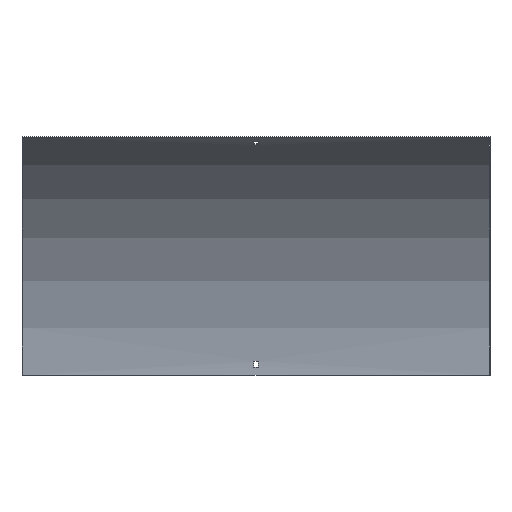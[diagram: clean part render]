
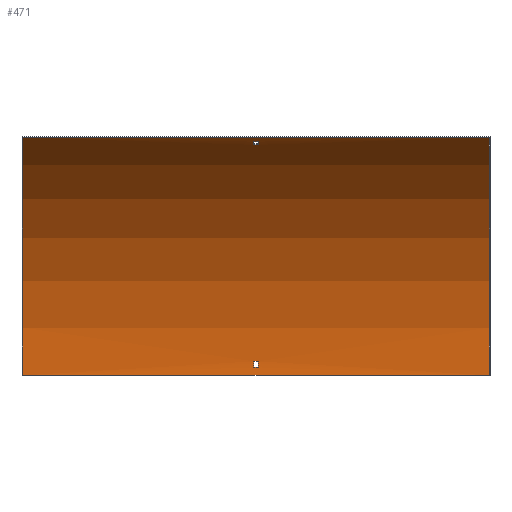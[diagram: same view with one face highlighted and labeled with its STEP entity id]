
A CAD part, front view. The second image highlights one B-rep face of the part: STEP entity #471.
In plain terms, the highlighted cylindrical face has radius 412.5 mm (diameter 825 mm), a partial arc.
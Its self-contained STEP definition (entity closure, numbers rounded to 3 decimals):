
#1 = ORIENTED_EDGE ( 'NONE', *, *, #557, .F. ) ;
#4 = VERTEX_POINT ( 'NONE', #45 ) ;
#9 = DIRECTION ( 'NONE',  ( 1., 0., 0. ) ) ;
#20 = LINE ( 'NONE', #585, #376 ) ;
#22 = ORIENTED_EDGE ( 'NONE', *, *, #40, .T. ) ;
#29 = CARTESIAN_POINT ( 'NONE',  ( 350., -207.75, 357.235 ) ) ;
#34 = EDGE_LOOP ( 'NONE', ( #61, #313, #528, #197 ) ) ;
#40 = EDGE_CURVE ( 'NONE', #273, #304, #233, .T. ) ;
#44 = EDGE_CURVE ( 'NONE', #304, #487, #251, .T. ) ;
#45 = CARTESIAN_POINT ( 'NONE',  ( 3.25, -1.675, 12. ) ) ;
#47 = DIRECTION ( 'NONE',  ( -1., 0., 0. ) ) ;
#52 = FACE_OUTER_BOUND ( 'NONE', #153, .T. ) ;
#58 = EDGE_CURVE ( 'NONE', #446, #4, #131, .T. ) ;
#61 = ORIENTED_EDGE ( 'NONE', *, *, #325, .T. ) ;
#69 = CIRCLE ( 'NONE', #441, 412.5 ) ;
#83 = EDGE_LOOP ( 'NONE', ( #594, #438, #1, #425 ) ) ;
#91 = CARTESIAN_POINT ( 'NONE',  ( 3.25, -189.831, 346.272 ) ) ;
#92 = DIRECTION ( 'NONE',  ( 1., 0., 0. ) ) ;
#98 = CARTESIAN_POINT ( 'NONE',  ( 350., -1.5, 0. ) ) ;
#101 = EDGE_CURVE ( 'NONE', #580, #446, #234, .T. ) ;
#121 = ORIENTED_EDGE ( 'NONE', *, *, #271, .F. ) ;
#128 = EDGE_CURVE ( 'NONE', #364, #482, #69, .T. ) ;
#131 = LINE ( 'NONE', #283, #484 ) ;
#134 = LINE ( 'NONE', #606, #410 ) ;
#142 = DIRECTION ( 'NONE',  ( -1., 0., 0. ) ) ;
#143 = CARTESIAN_POINT ( 'NONE',  ( 350., -207.75, 357.235 ) ) ;
#150 = DIRECTION ( 'NONE',  ( 0., 0., -1. ) ) ;
#153 = EDGE_LOOP ( 'NONE', ( #121, #165, #22, #215 ) ) ;
#157 = VECTOR ( 'NONE', #524, 1000. ) ;
#165 = ORIENTED_EDGE ( 'NONE', *, *, #523, .F. ) ;
#177 = DIRECTION ( 'NONE',  ( 1., 0., 0. ) ) ;
#181 = CIRCLE ( 'NONE', #521, 412.5 ) ;
#186 = CARTESIAN_POINT ( 'NONE',  ( -3.25, -2.035, 21. ) ) ;
#192 = DIRECTION ( 'NONE',  ( 0., 0., 1. ) ) ;
#197 = ORIENTED_EDGE ( 'NONE', *, *, #128, .T. ) ;
#203 = VERTEX_POINT ( 'NONE', #296 ) ;
#210 = CARTESIAN_POINT ( 'NONE',  ( 351.5, -189.831, 346.272 ) ) ;
#215 = ORIENTED_EDGE ( 'NONE', *, *, #44, .T. ) ;
#219 = LINE ( 'NONE', #210, #586 ) ;
#233 = CIRCLE ( 'NONE', #598, 412.5 ) ;
#234 = CIRCLE ( 'NONE', #280, 412.5 ) ;
#239 = FACE_BOUND ( 'NONE', #34, .T. ) ;
#240 = DIRECTION ( 'NONE',  ( 0., 0., 1. ) ) ;
#244 = CARTESIAN_POINT ( 'NONE',  ( 351.5, -414., 0. ) ) ;
#249 = DIRECTION ( 'NONE',  ( -1., 0., 0. ) ) ;
#251 = LINE ( 'NONE', #143, #412 ) ;
#260 = AXIS2_PLACEMENT_3D ( 'NONE', #595, #177, #263 ) ;
#263 = DIRECTION ( 'NONE',  ( 0., 1., 0. ) ) ;
#268 = DIRECTION ( 'NONE',  ( -1., 0., 0. ) ) ;
#271 = EDGE_CURVE ( 'NONE', #203, #487, #399, .T. ) ;
#273 = VERTEX_POINT ( 'NONE', #525 ) ;
#278 = CIRCLE ( 'NONE', #260, 412.5 ) ;
#280 = AXIS2_PLACEMENT_3D ( 'NONE', #382, #423, #192 ) ;
#283 = CARTESIAN_POINT ( 'NONE',  ( 351.5, -1.675, 12. ) ) ;
#287 = CARTESIAN_POINT ( 'NONE',  ( 3.25, -414., 0. ) ) ;
#296 = CARTESIAN_POINT ( 'NONE',  ( -350., -1.5, 0. ) ) ;
#299 = EDGE_CURVE ( 'NONE', #573, #580, #20, .T. ) ;
#304 = VERTEX_POINT ( 'NONE', #29 ) ;
#310 = CARTESIAN_POINT ( 'NONE',  ( -3.25, -197.445, 351.084 ) ) ;
#313 = ORIENTED_EDGE ( 'NONE', *, *, #388, .T. ) ;
#325 = EDGE_CURVE ( 'NONE', #482, #591, #219, .T. ) ;
#327 = CARTESIAN_POINT ( 'NONE',  ( 3.25, -2.035, 21. ) ) ;
#330 = CARTESIAN_POINT ( 'NONE',  ( -3.25, -1.675, 12. ) ) ;
#333 = CARTESIAN_POINT ( 'NONE',  ( -350., -207.75, 357.235 ) ) ;
#364 = VERTEX_POINT ( 'NONE', #395 ) ;
#371 = VERTEX_POINT ( 'NONE', #310 ) ;
#376 = VECTOR ( 'NONE', #543, 1000. ) ;
#377 = CARTESIAN_POINT ( 'NONE',  ( -3.25, -189.831, 346.272 ) ) ;
#382 = CARTESIAN_POINT ( 'NONE',  ( -3.25, -414., 0. ) ) ;
#388 = EDGE_CURVE ( 'NONE', #591, #371, #278, .T. ) ;
#395 = CARTESIAN_POINT ( 'NONE',  ( 3.25, -197.445, 351.084 ) ) ;
#399 = CIRCLE ( 'NONE', #488, 412.5 ) ;
#410 = VECTOR ( 'NONE', #421, 1000. ) ;
#412 = VECTOR ( 'NONE', #249, 1000. ) ;
#415 = FACE_BOUND ( 'NONE', #83, .T. ) ;
#421 = DIRECTION ( 'NONE',  ( 1., 0., 0. ) ) ;
#423 = DIRECTION ( 'NONE',  ( -1., 0., 0. ) ) ;
#425 = ORIENTED_EDGE ( 'NONE', *, *, #58, .F. ) ;
#429 = CARTESIAN_POINT ( 'NONE',  ( -350., -414., 0. ) ) ;
#432 = EDGE_CURVE ( 'NONE', #371, #364, #134, .T. ) ;
#438 = ORIENTED_EDGE ( 'NONE', *, *, #299, .F. ) ;
#441 = AXIS2_PLACEMENT_3D ( 'NONE', #469, #47, #240 ) ;
#446 = VERTEX_POINT ( 'NONE', #330 ) ;
#467 = DIRECTION ( 'NONE',  ( 0., 0., -1. ) ) ;
#469 = CARTESIAN_POINT ( 'NONE',  ( 3.25, -414., 0. ) ) ;
#471 = ADVANCED_FACE ( 'NONE', ( #415, #52, #239 ), #603, .F. ) ;
#478 = DIRECTION ( 'NONE',  ( 1., 0., 0. ) ) ;
#482 = VERTEX_POINT ( 'NONE', #91 ) ;
#484 = VECTOR ( 'NONE', #92, 1000. ) ;
#487 = VERTEX_POINT ( 'NONE', #333 ) ;
#488 = AXIS2_PLACEMENT_3D ( 'NONE', #429, #9, #150 ) ;
#504 = LINE ( 'NONE', #98, #157 ) ;
#515 = CARTESIAN_POINT ( 'NONE',  ( 350., -414., 0. ) ) ;
#518 = AXIS2_PLACEMENT_3D ( 'NONE', #244, #142, #567 ) ;
#521 = AXIS2_PLACEMENT_3D ( 'NONE', #287, #559, #467 ) ;
#523 = EDGE_CURVE ( 'NONE', #273, #203, #504, .T. ) ;
#524 = DIRECTION ( 'NONE',  ( -1., 0., 0. ) ) ;
#525 = CARTESIAN_POINT ( 'NONE',  ( 350., -1.5, 0. ) ) ;
#528 = ORIENTED_EDGE ( 'NONE', *, *, #432, .T. ) ;
#543 = DIRECTION ( 'NONE',  ( -1., 0., 0. ) ) ;
#557 = EDGE_CURVE ( 'NONE', #4, #573, #181, .T. ) ;
#559 = DIRECTION ( 'NONE',  ( 1., 0., 0. ) ) ;
#567 = DIRECTION ( 'NONE',  ( 0., 0., 1. ) ) ;
#573 = VERTEX_POINT ( 'NONE', #327 ) ;
#580 = VERTEX_POINT ( 'NONE', #186 ) ;
#585 = CARTESIAN_POINT ( 'NONE',  ( 351.5, -2.035, 21. ) ) ;
#586 = VECTOR ( 'NONE', #268, 1000. ) ;
#591 = VERTEX_POINT ( 'NONE', #377 ) ;
#594 = ORIENTED_EDGE ( 'NONE', *, *, #101, .F. ) ;
#595 = CARTESIAN_POINT ( 'NONE',  ( -3.25, -414., 0. ) ) ;
#598 = AXIS2_PLACEMENT_3D ( 'NONE', #515, #478, #604 ) ;
#603 = CYLINDRICAL_SURFACE ( 'NONE', #518, 412.5 ) ;
#604 = DIRECTION ( 'NONE',  ( 0., 0., -1. ) ) ;
#606 = CARTESIAN_POINT ( 'NONE',  ( 351.5, -197.445, 351.084 ) ) ;
